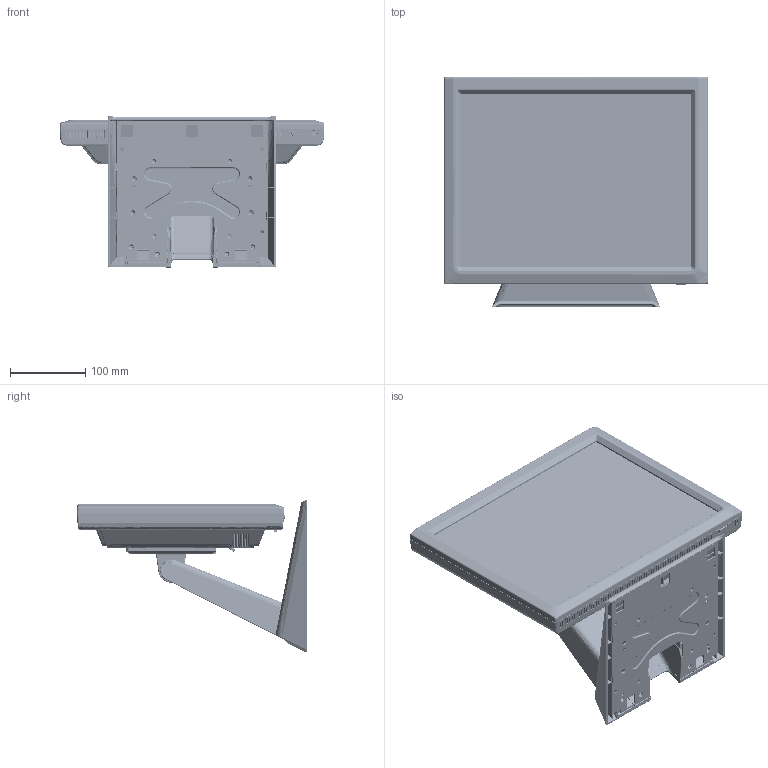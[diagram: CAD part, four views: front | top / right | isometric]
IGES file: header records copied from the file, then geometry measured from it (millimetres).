
Start section: SolidWorks IGES file using analytic representation for surfaces
Global section: file name: C:\Users\jcordisco\Documents\Projects\Monitor\Final\PT1545R\997-5967-02_A_PT1545R.IGS; native system: SolidWorks 2019; preprocessor: SolidWorks 2019; author: jcordisco; date: 210726.092129; units: millimetre
Bounding box: 350.8 x 305.42 x 201.98 mm (x, y, z)
Surface area: 1174068.9 mm2 (no closed solid volume)
Topology: 0 solids, 0 shells, 15980 faces, 124791 edges, 124709 vertices
Faces by surface type: bspline 10908, revolution 5072
